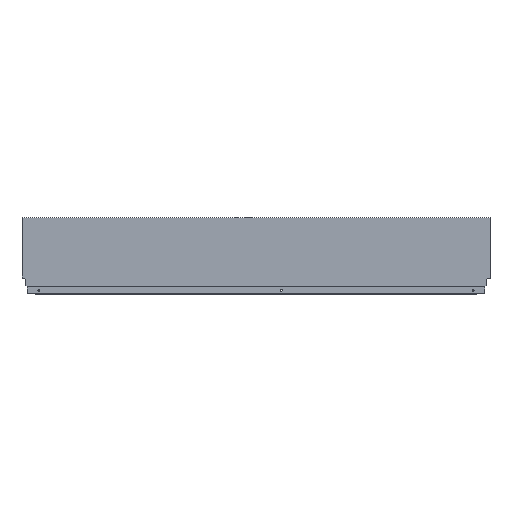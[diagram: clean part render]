
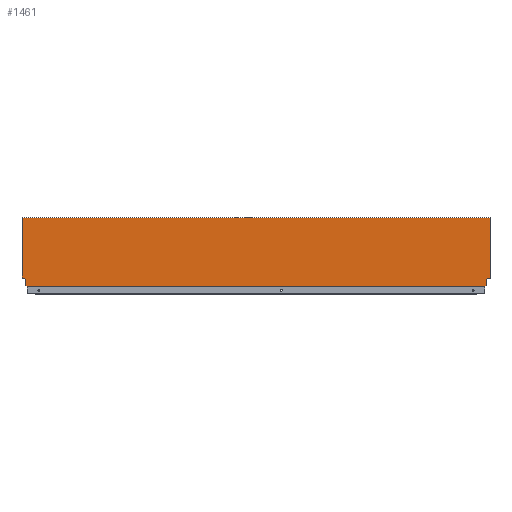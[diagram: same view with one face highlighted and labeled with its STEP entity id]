
A CAD part, top view. The second image highlights one B-rep face of the part: STEP entity #1461.
In plain terms, the highlighted planar face has unit normal (0, 0, 1).
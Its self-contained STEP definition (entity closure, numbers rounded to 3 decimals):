
#15 = CARTESIAN_POINT ( 'NONE',  ( -13.004, 1.146, 7.5 ) ) ;
#64 = VERTEX_POINT ( 'NONE', #1521 ) ;
#65 = VERTEX_POINT ( 'NONE', #86 ) ;
#75 = VERTEX_POINT ( 'NONE', #94 ) ;
#86 = CARTESIAN_POINT ( 'NONE',  ( -1097.996, 1.146, 7.5 ) ) ;
#94 = CARTESIAN_POINT ( 'NONE',  ( -8.9, 2.64, 7.5 ) ) ;
#112 = CARTESIAN_POINT ( 'NONE',  ( -1111., 164.7, 7.5 ) ) ;
#125 = CARTESIAN_POINT ( 'NONE',  ( -7.06, 21.2, 7.5 ) ) ;
#130 = CARTESIAN_POINT ( 'NONE',  ( -1111., 164.7, 7.5 ) ) ;
#141 = CARTESIAN_POINT ( 'NONE',  ( 0., 21.2, 7.5 ) ) ;
#148 = CARTESIAN_POINT ( 'NONE',  ( -8.9, 10.765, 7.5 ) ) ;
#169 = CARTESIAN_POINT ( 'NONE',  ( -1097.996, 1.146, 7.5 ) ) ;
#170 = DIRECTION ( 'NONE',  ( 0., 1., 0. ) ) ;
#201 = DIRECTION ( 'NONE',  ( 1., 0., 0. ) ) ;
#346 = ORIENTED_EDGE ( 'NONE', *, *, #999, .F. ) ;
#394 = ORIENTED_EDGE ( 'NONE', *, *, #1013, .F. ) ;
#395 = ORIENTED_EDGE ( 'NONE', *, *, #1016, .F. ) ;
#396 = ORIENTED_EDGE ( 'NONE', *, *, #1008, .T. ) ;
#400 = ORIENTED_EDGE ( 'NONE', *, *, #1024, .F. ) ;
#401 = ORIENTED_EDGE ( 'NONE', *, *, #1010, .F. ) ;
#402 = ORIENTED_EDGE ( 'NONE', *, *, #1012, .F. ) ;
#403 = ORIENTED_EDGE ( 'NONE', *, *, #1007, .F. ) ;
#404 = ORIENTED_EDGE ( 'NONE', *, *, #1009, .F. ) ;
#405 = ORIENTED_EDGE ( 'NONE', *, *, #1018, .T. ) ;
#406 = ORIENTED_EDGE ( 'NONE', *, *, #1002, .F. ) ;
#407 = ORIENTED_EDGE ( 'NONE', *, *, #1004, .F. ) ;
#408 = ORIENTED_EDGE ( 'NONE', *, *, #1006, .F. ) ;
#409 = ORIENTED_EDGE ( 'NONE', *, *, #1005, .F. ) ;
#464 = EDGE_LOOP ( 'NONE', ( #396, #395, #394, #402, #401, #400, #405, #404, #403, #408, #407, #406, #409, #346 ) ) ;
#765 = LINE ( 'NONE', #1180, #775 ) ;
#767 = VECTOR ( 'NONE', #1528, 1000. ) ;
#770 = LINE ( 'NONE', #112, #771 ) ;
#771 = VECTOR ( 'NONE', #1179, 1000. ) ;
#772 = LINE ( 'NONE', #1530, #767 ) ;
#774 = LINE ( 'NONE', #1165, #788 ) ;
#775 = VECTOR ( 'NONE', #1178, 1000. ) ;
#778 = LINE ( 'NONE', #1174, #779 ) ;
#779 = VECTOR ( 'NONE', #1173, 1000. ) ;
#780 = LINE ( 'NONE', #1172, #781 ) ;
#781 = VECTOR ( 'NONE', #1171, 1000. ) ;
#782 = LINE ( 'NONE', #1170, #783 ) ;
#783 = VECTOR ( 'NONE', #1168, 1000. ) ;
#784 = LINE ( 'NONE', #1167, #785 ) ;
#785 = VECTOR ( 'NONE', #1166, 1000. ) ;
#786 = LINE ( 'NONE', #1163, #787 ) ;
#787 = VECTOR ( 'NONE', #1162, 1000. ) ;
#788 = VECTOR ( 'NONE', #1161, 1000. ) ;
#790 = LINE ( 'NONE', #1526, #791 ) ;
#791 = VECTOR ( 'NONE', #1531, 1000. ) ;
#794 = LINE ( 'NONE', #1456, #795 ) ;
#795 = VECTOR ( 'NONE', #1454, 1000. ) ;
#796 = LINE ( 'NONE', #1529, #798 ) ;
#798 = VECTOR ( 'NONE', #1457, 1000. ) ;
#800 = LINE ( 'NONE', #1455, #801 ) ;
#801 = VECTOR ( 'NONE', #201, 1000. ) ;
#802 = LINE ( 'NONE', #169, #805 ) ;
#805 = VECTOR ( 'NONE', #170, 1000. ) ;
#916 = FACE_OUTER_BOUND ( 'NONE', #464, .T. ) ;
#968 = VERTEX_POINT ( 'NONE', #15 ) ;
#999 = EDGE_CURVE ( 'NONE', #1191, #1203, #770, .T. ) ;
#1002 = EDGE_CURVE ( 'NONE', #1182, #1195, #765, .T. ) ;
#1004 = EDGE_CURVE ( 'NONE', #1195, #1154, #778, .T. ) ;
#1005 = EDGE_CURVE ( 'NONE', #1203, #1182, #780, .T. ) ;
#1006 = EDGE_CURVE ( 'NONE', #1154, #75, #782, .T. ) ;
#1007 = EDGE_CURVE ( 'NONE', #75, #968, #784, .T. ) ;
#1008 = EDGE_CURVE ( 'NONE', #1191, #1523, #786, .T. ) ;
#1009 = EDGE_CURVE ( 'NONE', #968, #1209, #774, .T. ) ;
#1010 = EDGE_CURVE ( 'NONE', #65, #1508, #790, .T. ) ;
#1012 = EDGE_CURVE ( 'NONE', #1508, #1204, #772, .T. ) ;
#1013 = EDGE_CURVE ( 'NONE', #1204, #64, #794, .T. ) ;
#1016 = EDGE_CURVE ( 'NONE', #64, #1523, #796, .T. ) ;
#1018 = EDGE_CURVE ( 'NONE', #1514, #1209, #800, .T. ) ;
#1024 = EDGE_CURVE ( 'NONE', #1514, #65, #802, .T. ) ;
#1099 = AXIS2_PLACEMENT_3D ( 'NONE', #1360, #1426, #1422 ) ;
#1154 = VERTEX_POINT ( 'NONE', #148 ) ;
#1161 = DIRECTION ( 'NONE',  ( 0., -1., 0. ) ) ;
#1162 = DIRECTION ( 'NONE',  ( 0., -1., 0. ) ) ;
#1163 = CARTESIAN_POINT ( 'NONE',  ( -1111., 0., 7.5 ) ) ;
#1165 = CARTESIAN_POINT ( 'NONE',  ( -13.004, 1.146, 7.5 ) ) ;
#1166 = DIRECTION ( 'NONE',  ( -0.94, -0.342, 0. ) ) ;
#1167 = CARTESIAN_POINT ( 'NONE',  ( -8.9, 2.64, 7.5 ) ) ;
#1168 = DIRECTION ( 'NONE',  ( 0., -1., 0. ) ) ;
#1170 = CARTESIAN_POINT ( 'NONE',  ( -8.9, 10.765, 7.5 ) ) ;
#1171 = DIRECTION ( 'NONE',  ( 0., -1., 0. ) ) ;
#1172 = CARTESIAN_POINT ( 'NONE',  ( 0., 0., 7.5 ) ) ;
#1173 = DIRECTION ( 'NONE',  ( -0.174, -0.985, 0. ) ) ;
#1174 = CARTESIAN_POINT ( 'NONE',  ( -7.06, 21.2, 7.5 ) ) ;
#1178 = DIRECTION ( 'NONE',  ( -1., 0., 0. ) ) ;
#1179 = DIRECTION ( 'NONE',  ( 1., 0., 0. ) ) ;
#1180 = CARTESIAN_POINT ( 'NONE',  ( 0., 21.2, 7.5 ) ) ;
#1182 = VERTEX_POINT ( 'NONE', #141 ) ;
#1191 = VERTEX_POINT ( 'NONE', #130 ) ;
#1195 = VERTEX_POINT ( 'NONE', #125 ) ;
#1203 = VERTEX_POINT ( 'NONE', #1444 ) ;
#1204 = VERTEX_POINT ( 'NONE', #1216 ) ;
#1209 = VERTEX_POINT ( 'NONE', #1214 ) ;
#1214 = CARTESIAN_POINT ( 'NONE',  ( -13.004, 0., 7.5 ) ) ;
#1216 = CARTESIAN_POINT ( 'NONE',  ( -1102.1, 10.765, 7.5 ) ) ;
#1278 = CARTESIAN_POINT ( 'NONE',  ( -1102.1, 2.64, 7.5 ) ) ;
#1290 = CARTESIAN_POINT ( 'NONE',  ( -1111., 21.2, 7.5 ) ) ;
#1360 = CARTESIAN_POINT ( 'NONE',  ( -1111., 0., 7.5 ) ) ;
#1369 = CARTESIAN_POINT ( 'NONE',  ( -1097.996, 0., 7.5 ) ) ;
#1422 = DIRECTION ( 'NONE',  ( 1., 0., 0. ) ) ;
#1426 = DIRECTION ( 'NONE',  ( 0., 0., 1. ) ) ;
#1444 = CARTESIAN_POINT ( 'NONE',  ( 0., 164.7, 7.5 ) ) ;
#1447 = PLANE ( 'NONE',  #1099 ) ;
#1454 = DIRECTION ( 'NONE',  ( -0.174, 0.985, 0. ) ) ;
#1455 = CARTESIAN_POINT ( 'NONE',  ( -1111., 0., 7.5 ) ) ;
#1456 = CARTESIAN_POINT ( 'NONE',  ( -1103.94, 21.2, 7.5 ) ) ;
#1457 = DIRECTION ( 'NONE',  ( -1., 0., 0. ) ) ;
#1461 = ADVANCED_FACE ( 'NONE', ( #916 ), #1447, .T. ) ;
#1508 = VERTEX_POINT ( 'NONE', #1278 ) ;
#1514 = VERTEX_POINT ( 'NONE', #1369 ) ;
#1521 = CARTESIAN_POINT ( 'NONE',  ( -1103.94, 21.2, 7.5 ) ) ;
#1523 = VERTEX_POINT ( 'NONE', #1290 ) ;
#1526 = CARTESIAN_POINT ( 'NONE',  ( -1102.1, 2.64, 7.5 ) ) ;
#1528 = DIRECTION ( 'NONE',  ( 0., 1., 0. ) ) ;
#1529 = CARTESIAN_POINT ( 'NONE',  ( -1116., 21.2, 7.5 ) ) ;
#1530 = CARTESIAN_POINT ( 'NONE',  ( -1102.1, 10.765, 7.5 ) ) ;
#1531 = DIRECTION ( 'NONE',  ( -0.94, 0.342, 0. ) ) ;
